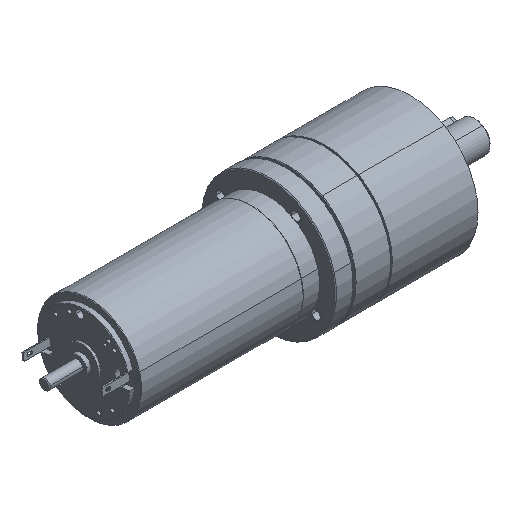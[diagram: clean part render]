
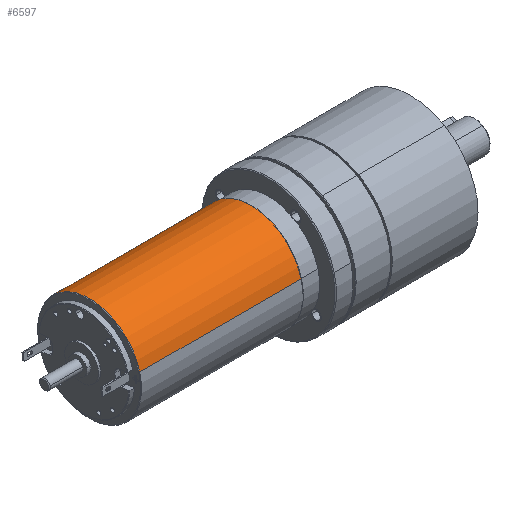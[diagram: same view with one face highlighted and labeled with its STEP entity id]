
A CAD part, isometric view. The second image highlights one B-rep face of the part: STEP entity #6597.
In plain terms, the highlighted cylindrical face has radius 20 mm (diameter 40 mm), a partial arc.
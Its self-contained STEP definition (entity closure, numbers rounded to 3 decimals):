
#754 = ORIENTED_EDGE ( 'NONE', *, *, #15958, .T. ) ;
#1767 = EDGE_CURVE ( 'NONE', #9862, #1785, #6472, .T. ) ;
#1785 = VERTEX_POINT ( 'NONE', #7627 ) ;
#2309 = EDGE_LOOP ( 'NONE', ( #17238, #21938, #754, #23907 ) ) ;
#2611 = AXIS2_PLACEMENT_3D ( 'NONE', #4185, #22241, #7736 ) ;
#3408 = CARTESIAN_POINT ( 'NONE',  ( 0., 0., 20. ) ) ;
#3901 = CARTESIAN_POINT ( 'NONE',  ( 0., 0., -20. ) ) ;
#4185 = CARTESIAN_POINT ( 'NONE',  ( 0., 0., 0. ) ) ;
#4749 = DIRECTION ( 'NONE',  ( -1., 0., 0. ) ) ;
#5986 = EDGE_CURVE ( 'NONE', #1785, #7224, #18006, .T. ) ;
#6290 = CARTESIAN_POINT ( 'NONE',  ( 89.1, 0., 20. ) ) ;
#6472 = LINE ( 'NONE', #3901, #17089 ) ;
#6597 = ADVANCED_FACE ( 'NONE', ( #13282 ), #16305, .T. ) ;
#6937 = AXIS2_PLACEMENT_3D ( 'NONE', #14323, #14350, #14437 ) ;
#7224 = VERTEX_POINT ( 'NONE', #10438 ) ;
#7627 = CARTESIAN_POINT ( 'NONE',  ( 26.8, 0., -20. ) ) ;
#7736 = DIRECTION ( 'NONE',  ( 0., 0., 1. ) ) ;
#9862 = VERTEX_POINT ( 'NONE', #17405 ) ;
#10438 = CARTESIAN_POINT ( 'NONE',  ( 26.8, 0., 20. ) ) ;
#11238 = CARTESIAN_POINT ( 'NONE',  ( 89.1, 0., 0. ) ) ;
#13282 = FACE_OUTER_BOUND ( 'NONE', #2309, .T. ) ;
#13374 = DIRECTION ( 'NONE',  ( 0., 0., 1. ) ) ;
#14323 = CARTESIAN_POINT ( 'NONE',  ( 26.8, 0., 0. ) ) ;
#14350 = DIRECTION ( 'NONE',  ( -1., 0., 0. ) ) ;
#14437 = DIRECTION ( 'NONE',  ( 0., 0., 1. ) ) ;
#15257 = VECTOR ( 'NONE', #24618, 1000. ) ;
#15958 = EDGE_CURVE ( 'NONE', #17584, #7224, #21636, .T. ) ;
#16305 = CYLINDRICAL_SURFACE ( 'NONE', #2611, 20. ) ;
#17089 = VECTOR ( 'NONE', #4749, 1000. ) ;
#17238 = ORIENTED_EDGE ( 'NONE', *, *, #1767, .F. ) ;
#17405 = CARTESIAN_POINT ( 'NONE',  ( 89.1, 0., -20. ) ) ;
#17584 = VERTEX_POINT ( 'NONE', #6290 ) ;
#18006 = CIRCLE ( 'NONE', #6937, 20. ) ;
#20197 = EDGE_CURVE ( 'NONE', #9862, #17584, #22007, .T. ) ;
#21636 = LINE ( 'NONE', #3408, #15257 ) ;
#21938 = ORIENTED_EDGE ( 'NONE', *, *, #20197, .T. ) ;
#22007 = CIRCLE ( 'NONE', #25428, 20. ) ;
#22241 = DIRECTION ( 'NONE',  ( -1., 0., 0. ) ) ;
#23907 = ORIENTED_EDGE ( 'NONE', *, *, #5986, .F. ) ;
#24618 = DIRECTION ( 'NONE',  ( -1., 0., 0. ) ) ;
#25428 = AXIS2_PLACEMENT_3D ( 'NONE', #11238, #26197, #13374 ) ;
#26197 = DIRECTION ( 'NONE',  ( -1., 0., 0. ) ) ;
